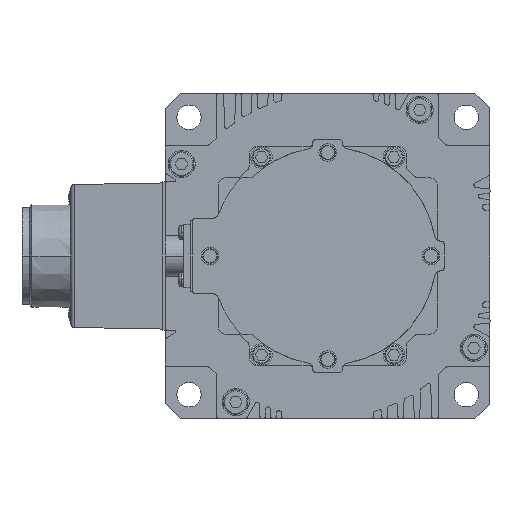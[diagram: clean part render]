
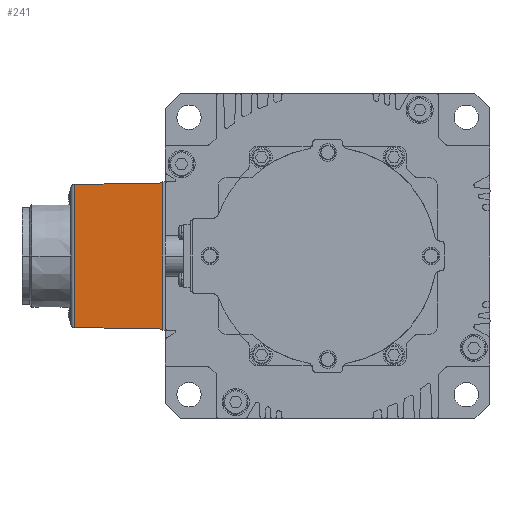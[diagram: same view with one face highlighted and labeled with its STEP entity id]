
A CAD part, left-side view. The second image highlights one B-rep face of the part: STEP entity #241.
In plain terms, the highlighted planar face has unit normal (-0.999, 0.035, 0).
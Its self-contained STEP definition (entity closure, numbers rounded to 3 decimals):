
#241 = ADVANCED_FACE( '', ( #1119 ), #1120, .T. );
#1119 = FACE_OUTER_BOUND( '', #2590, .T. );
#1120 = PLANE( '', #2591 );
#2590 = EDGE_LOOP( '', ( #5020, #5021, #5022, #5023, #5024, #5025 ) );
#2591 = AXIS2_PLACEMENT_3D( '', #5026, #5027, #5028 );
#5020 = ORIENTED_EDGE( '', *, *, #10161, .T. );
#5021 = ORIENTED_EDGE( '', *, *, #10147, .T. );
#5022 = ORIENTED_EDGE( '', *, *, #10174, .T. );
#5023 = ORIENTED_EDGE( '', *, *, #10154, .T. );
#5024 = ORIENTED_EDGE( '', *, *, #10168, .T. );
#5025 = ORIENTED_EDGE( '', *, *, #10175, .F. );
#5026 = CARTESIAN_POINT( '', ( -139.363, 93.552, 27.5 ) );
#5027 = DIRECTION( '', ( -0.999, 0.035, 0. ) );
#5028 = DIRECTION( '', ( 0.035, 0.999, 0. ) );
#10147 = EDGE_CURVE( '', #12472, #12473, #12474, .T. );
#10154 = EDGE_CURVE( '', #12487, #12485, #12488, .T. );
#10161 = EDGE_CURVE( '', #12500, #12472, #12501, .T. );
#10168 = EDGE_CURVE( '', #12485, #12511, #12513, .T. );
#10174 = EDGE_CURVE( '', #12473, #12487, #12523, .T. );
#10175 = EDGE_CURVE( '', #12500, #12511, #12524, .T. );
#12472 = VERTEX_POINT( '', #16004 );
#12473 = VERTEX_POINT( '', #16005 );
#12474 = ELLIPSE( '', #16006, 1.501, 1.5 );
#12485 = VERTEX_POINT( '', #16019 );
#12487 = VERTEX_POINT( '', #16022 );
#12488 = ELLIPSE( '', #16023, 1.501, 1.5 );
#12500 = VERTEX_POINT( '', #16039 );
#12501 = LINE( '', #16040, #16041 );
#12511 = VERTEX_POINT( '', #16055 );
#12513 = LINE( '', #16058, #16059 );
#12523 = LINE( '', #16074, #16075 );
#12524 = LINE( '', #16076, #16077 );
#16004 = CARTESIAN_POINT( '', ( -139.364, 93.526, 26.432 ) );
#16005 = CARTESIAN_POINT( '', ( -139.363, 93.552, 26.432 ) );
#16006 = AXIS2_PLACEMENT_3D( '', #20313, #20314, #20315 );
#16019 = CARTESIAN_POINT( '', ( -139.364, 93.526, -26.432 ) );
#16022 = CARTESIAN_POINT( '', ( -139.363, 93.552, -26.432 ) );
#16023 = AXIS2_PLACEMENT_3D( '', #20328, #20329, #20330 );
#16039 = CARTESIAN_POINT( '', ( -140.5, 61., 27. ) );
#16040 = CARTESIAN_POINT( '', ( -139.893, 78.374, 26.697 ) );
#16041 = VECTOR( '', #20341, 1. );
#16055 = CARTESIAN_POINT( '', ( -140.5, 61., -27. ) );
#16058 = CARTESIAN_POINT( '', ( -139.309, 95.096, -26.405 ) );
#16059 = VECTOR( '', #20350, 1. );
#16074 = CARTESIAN_POINT( '', ( -139.363, 93.552, 27.5 ) );
#16075 = VECTOR( '', #20356, 1. );
#16076 = CARTESIAN_POINT( '', ( -140.5, 61., 27.5 ) );
#16077 = VECTOR( '', #20357, 1. );
#20313 = CARTESIAN_POINT( '', ( -139.365, 93.5, 24.932 ) );
#20314 = DIRECTION( '', ( -0.999, 0.035, 0. ) );
#20315 = DIRECTION( '', ( 0.035, 0.999, 0. ) );
#20328 = CARTESIAN_POINT( '', ( -139.365, 93.5, -24.932 ) );
#20329 = DIRECTION( '', ( -0.999, 0.035, 0. ) );
#20330 = DIRECTION( '', ( 0.035, 0.999, 0. ) );
#20341 = DIRECTION( '', ( 0.035, 0.999, -0.017 ) );
#20350 = DIRECTION( '', ( -0.035, -0.999, -0.017 ) );
#20356 = DIRECTION( '', ( 0., 0., -1. ) );
#20357 = DIRECTION( '', ( 0., 0., -1. ) );
